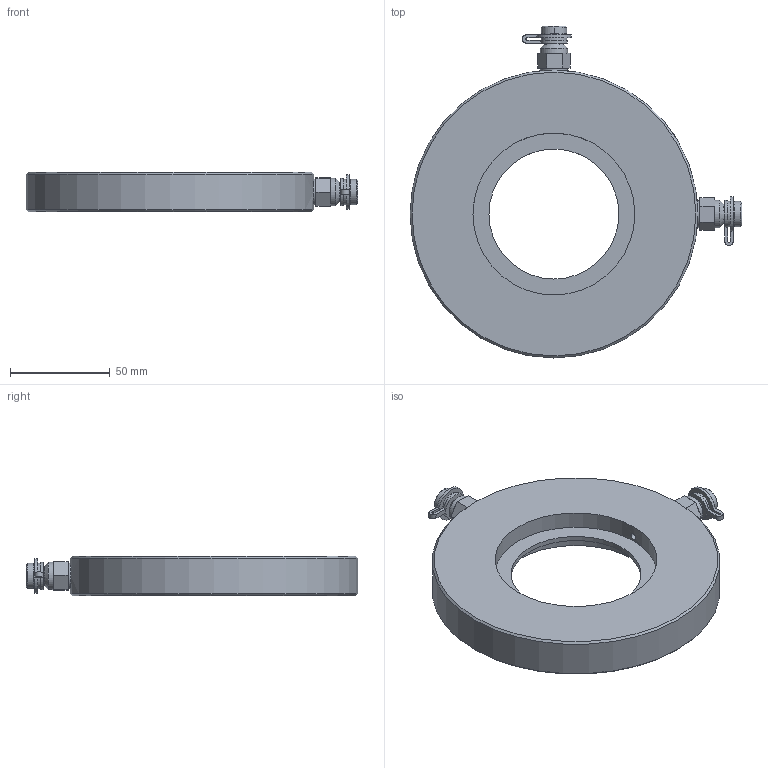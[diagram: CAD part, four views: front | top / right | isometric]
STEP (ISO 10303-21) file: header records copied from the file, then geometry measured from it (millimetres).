
FILE_DESCRIPTION((''),'2;1');
FILE_NAME('P:\Fastrack\53972_CRANE 3D\Workspace\HATTERSLEY\Fig-2000_DN80\Fig-2000_DN80.stp','2011-03-08T08:55:06',('btaylor'),(''),'Autodesk Inventor 2008','Autodesk Inventor 2008','');
FILE_SCHEMA(('AUTOMOTIVE_DESIGN { 1 0 10303 214 1 1 1 1 }'));
Length unit declared in the file: millimetre
Products named in the file (1): Fig-2000_DN80
Bounding box: 166.1 x 166.1 x 20 mm (x, y, z)
Volume: 233202.7 mm3; surface area: 43003 mm2
Topology: 1 solids, 1 shells, 109 faces, 256 edges, 166 vertices
Faces by surface type: plane 72, cylinder 27, cone 8, bspline 2
Full cylindrical faces by diameter (mm): 3.2 x2, 7.4 x2, 11 x2, 12.7 x2, 13.7 x2, 65 x1, 81 x2, 144 x1
Entity records: 3903 total; most frequent: CARTESIAN_POINT 1392, DIRECTION 478, ORIENTED_EDGE 440, EDGE_CURVE 220, AXIS2_PLACEMENT_3D 184, EDGE_LOOP 156, VERTEX_POINT 154, VECTOR 110
